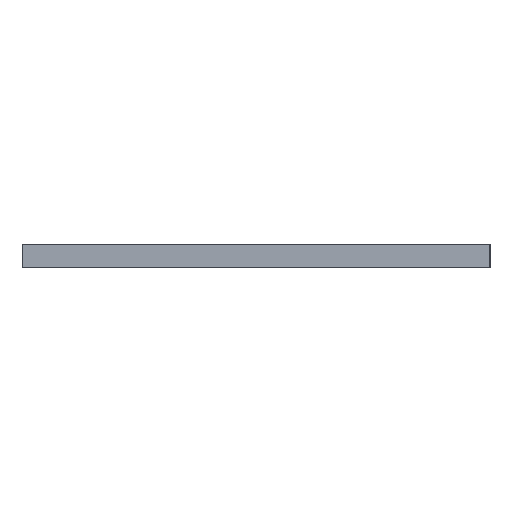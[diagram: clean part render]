
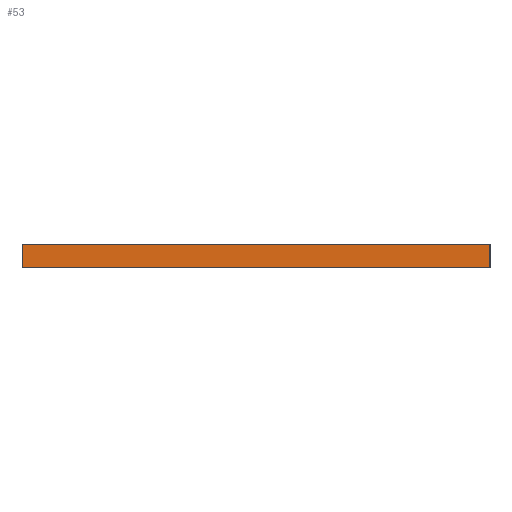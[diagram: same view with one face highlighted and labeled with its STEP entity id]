
A CAD part, left-side view. The second image highlights one B-rep face of the part: STEP entity #53.
In plain terms, the highlighted planar face has unit normal (-1, 0, 0).
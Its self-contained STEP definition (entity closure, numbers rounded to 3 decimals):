
#53=ADVANCED_FACE('',(#81),#1009,.T.);
#81=FACE_OUTER_BOUND('',#109,.T.);
#109=EDGE_LOOP('',(#159,#160,#161,#162));
#159=ORIENTED_EDGE('',*,*,#742,.T.);
#160=ORIENTED_EDGE('',*,*,#743,.T.);
#161=ORIENTED_EDGE('',*,*,#744,.T.);
#162=ORIENTED_EDGE('',*,*,#740,.F.);
#380=PCURVE('',#1008,#524);
#383=PCURVE('',#1009,#527);
#384=PCURVE('',#1009,#528);
#385=PCURVE('',#1009,#529);
#386=PCURVE('',#1009,#530);
#390=PCURVE('',#1010,#534);
#408=PCURVE('',#1011,#552);
#421=PCURVE('',#1012,#565);
#524=DEFINITIONAL_REPRESENTATION('',(#818),#2042);
#527=DEFINITIONAL_REPRESENTATION('',(#823),#2042);
#528=DEFINITIONAL_REPRESENTATION('',(#825),#2042);
#529=DEFINITIONAL_REPRESENTATION('',(#827),#2042);
#530=DEFINITIONAL_REPRESENTATION('',(#828),#2042);
#534=DEFINITIONAL_REPRESENTATION('',(#834),#2042);
#552=DEFINITIONAL_REPRESENTATION('',(#852),#2042);
#565=DEFINITIONAL_REPRESENTATION('',(#857),#2042);
#668=SURFACE_CURVE('',#817,(#380,#386),.PCURVE_S1.);
#670=SURFACE_CURVE('',#822,(#383,#408),.PCURVE_S1.);
#671=SURFACE_CURVE('',#824,(#384,#390),.PCURVE_S1.);
#672=SURFACE_CURVE('',#826,(#385,#421),.PCURVE_S1.);
#740=EDGE_CURVE('',#947,#948,#668,.T.);
#742=EDGE_CURVE('',#947,#949,#670,.T.);
#743=EDGE_CURVE('',#949,#950,#671,.T.);
#744=EDGE_CURVE('',#950,#948,#672,.T.);
#817=B_SPLINE_CURVE_WITH_KNOTS('',1,(#1263,#1264),.UNSPECIFIED.,.F.,.F.,
(2,2),(0.,3.),.UNSPECIFIED.);
#818=B_SPLINE_CURVE_WITH_KNOTS('',1,(#1265,#1266),.UNSPECIFIED.,.F.,.F.,
(2,2),(0.,3.),.UNSPECIFIED.);
#822=B_SPLINE_CURVE_WITH_KNOTS('',1,(#1273,#1274),.UNSPECIFIED.,.F.,.F.,
(2,2),(-853.,-807.),.UNSPECIFIED.);
#823=B_SPLINE_CURVE_WITH_KNOTS('',1,(#1275,#1276),.UNSPECIFIED.,.F.,.F.,
(2,2),(-853.,-807.),.UNSPECIFIED.);
#824=B_SPLINE_CURVE_WITH_KNOTS('',1,(#1277,#1278),.UNSPECIFIED.,.F.,.F.,
(2,2),(0.,3.),.UNSPECIFIED.);
#825=B_SPLINE_CURVE_WITH_KNOTS('',1,(#1279,#1280),.UNSPECIFIED.,.F.,.F.,
(2,2),(0.,3.),.UNSPECIFIED.);
#826=B_SPLINE_CURVE_WITH_KNOTS('',1,(#1281,#1282),.UNSPECIFIED.,.F.,.F.,
(2,2),(807.,853.),.UNSPECIFIED.);
#827=B_SPLINE_CURVE_WITH_KNOTS('',1,(#1283,#1284),.UNSPECIFIED.,.F.,.F.,
(2,2),(807.,853.),.UNSPECIFIED.);
#828=B_SPLINE_CURVE_WITH_KNOTS('',1,(#1285,#1286),.UNSPECIFIED.,.F.,.F.,
(2,2),(0.,3.),.UNSPECIFIED.);
#834=B_SPLINE_CURVE_WITH_KNOTS('',1,(#1297,#1298),.UNSPECIFIED.,.F.,.F.,
(2,2),(0.,3.),.UNSPECIFIED.);
#852=B_SPLINE_CURVE_WITH_KNOTS('',1,(#1389,#1390),.UNSPECIFIED.,.F.,.F.,
(2,2),(-853.,-807.),.UNSPECIFIED.);
#857=B_SPLINE_CURVE_WITH_KNOTS('',1,(#1459,#1460),.UNSPECIFIED.,.F.,.F.,
(2,2),(807.,853.),.UNSPECIFIED.);
#947=VERTEX_POINT('',#1223);
#948=VERTEX_POINT('',#1224);
#949=VERTEX_POINT('',#1225);
#950=VERTEX_POINT('',#1226);
#1008=PLANE('',#1040);
#1009=PLANE('',#1041);
#1010=PLANE('',#1042);
#1011=PLANE('',#1043);
#1012=PLANE('',#1044);
#1040=AXIS2_PLACEMENT_3D('',#1070,#1055,$);
#1041=AXIS2_PLACEMENT_3D('',#1071,#1056,$);
#1042=AXIS2_PLACEMENT_3D('',#1072,#1057,$);
#1043=AXIS2_PLACEMENT_3D('',#1145,#1058,$);
#1044=AXIS2_PLACEMENT_3D('',#1146,#1059,$);
#1055=DIRECTION('',(0.,1.,0.));
#1056=DIRECTION('',(-1.,0.,0.));
#1057=DIRECTION('',(0.,-1.,0.));
#1058=DIRECTION('',(0.,0.,-1.));
#1059=DIRECTION('',(0.,0.,1.));
#1070=CARTESIAN_POINT('',(0.,325.,137.));
#1071=CARTESIAN_POINT('',(-807.,325.,137.));
#1072=CARTESIAN_POINT('',(-807.,265.,137.));
#1145=CARTESIAN_POINT('',(0.,325.,137.));
#1146=CARTESIAN_POINT('',(0.,325.,140.));
#1223=CARTESIAN_POINT('',(-807.,325.,137.));
#1224=CARTESIAN_POINT('',(-807.,325.,140.));
#1225=CARTESIAN_POINT('',(-807.,265.,137.));
#1226=CARTESIAN_POINT('',(-807.,265.,140.));
#1263=CARTESIAN_POINT('',(-807.,325.,137.));
#1264=CARTESIAN_POINT('',(-807.,325.,140.));
#1265=CARTESIAN_POINT('',(-853.,0.));
#1266=CARTESIAN_POINT('',(-853.,3.));
#1273=CARTESIAN_POINT('',(-807.,325.,137.));
#1274=CARTESIAN_POINT('',(-807.,265.,137.));
#1275=CARTESIAN_POINT('',(-853.,0.));
#1276=CARTESIAN_POINT('',(-807.,0.));
#1277=CARTESIAN_POINT('',(-807.,265.,137.));
#1278=CARTESIAN_POINT('',(-807.,265.,140.));
#1279=CARTESIAN_POINT('',(-807.,0.));
#1280=CARTESIAN_POINT('',(-807.,3.));
#1281=CARTESIAN_POINT('',(-807.,265.,140.));
#1282=CARTESIAN_POINT('',(-807.,325.,140.));
#1283=CARTESIAN_POINT('',(-807.,3.));
#1284=CARTESIAN_POINT('',(-853.,3.));
#1285=CARTESIAN_POINT('',(-853.,0.));
#1286=CARTESIAN_POINT('',(-853.,3.));
#1297=CARTESIAN_POINT('',(-807.,0.));
#1298=CARTESIAN_POINT('',(-807.,3.));
#1389=CARTESIAN_POINT('',(-60.,807.));
#1390=CARTESIAN_POINT('',(0.,807.));
#1459=CARTESIAN_POINT('',(807.,0.));
#1460=CARTESIAN_POINT('',(807.,-60.));
#2042=(
GEOMETRIC_REPRESENTATION_CONTEXT(2)
PARAMETRIC_REPRESENTATION_CONTEXT()
REPRESENTATION_CONTEXT('pspace','')
);
